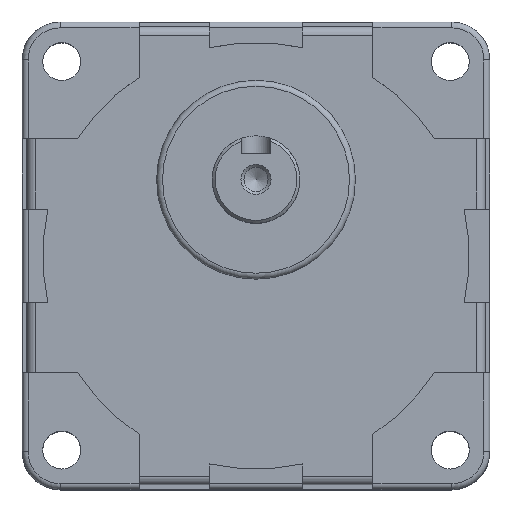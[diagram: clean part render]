
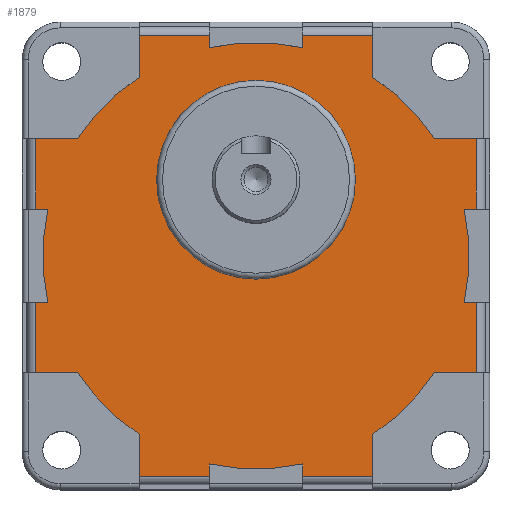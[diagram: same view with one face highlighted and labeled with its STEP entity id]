
A CAD part, top view. The second image highlights one B-rep face of the part: STEP entity #1879.
In plain terms, the highlighted planar face has unit normal (0, 0, 1).
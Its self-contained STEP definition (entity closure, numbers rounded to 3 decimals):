
#32=FACE_BOUND('',#267,.T.);
#46=PLANE('',#2035);
#154=FACE_OUTER_BOUND('',#266,.T.);
#266=EDGE_LOOP('',(#1392,#1393,#1394,#1395,#1396,#1397,#1398,#1399,#1400,
#1401,#1402,#1403,#1404,#1405,#1406,#1407,#1408,#1409,#1410,#1411,#1412,
#1413,#1414,#1415,#1416,#1417,#1418,#1419,#1420,#1421,#1422,#1423));
#267=EDGE_LOOP('',(#1424));
#375=LINE('',#2906,#560);
#379=LINE('',#2918,#564);
#381=LINE('',#2924,#566);
#382=LINE('',#2928,#567);
#383=LINE('',#2930,#568);
#384=LINE('',#2932,#569);
#385=LINE('',#2936,#570);
#386=LINE('',#2938,#571);
#387=LINE('',#2940,#572);
#388=LINE('',#2944,#573);
#389=LINE('',#2946,#574);
#390=LINE('',#2948,#575);
#391=LINE('',#2952,#576);
#392=LINE('',#2954,#577);
#393=LINE('',#2956,#578);
#394=LINE('',#2960,#579);
#395=LINE('',#2962,#580);
#396=LINE('',#2964,#581);
#397=LINE('',#2968,#582);
#398=LINE('',#2970,#583);
#399=LINE('',#2972,#584);
#400=LINE('',#2975,#585);
#401=LINE('',#2977,#586);
#402=LINE('',#2980,#587);
#560=VECTOR('',#2305,10.);
#564=VECTOR('',#2315,10.);
#566=VECTOR('',#2321,10.);
#567=VECTOR('',#2324,10.);
#568=VECTOR('',#2325,10.);
#569=VECTOR('',#2326,10.);
#570=VECTOR('',#2329,10.);
#571=VECTOR('',#2330,10.);
#572=VECTOR('',#2331,10.);
#573=VECTOR('',#2334,10.);
#574=VECTOR('',#2335,10.);
#575=VECTOR('',#2336,10.);
#576=VECTOR('',#2339,10.);
#577=VECTOR('',#2340,10.);
#578=VECTOR('',#2341,10.);
#579=VECTOR('',#2344,10.);
#580=VECTOR('',#2345,10.);
#581=VECTOR('',#2346,10.);
#582=VECTOR('',#2349,10.);
#583=VECTOR('',#2350,10.);
#584=VECTOR('',#2351,10.);
#585=VECTOR('',#2354,10.);
#586=VECTOR('',#2355,10.);
#587=VECTOR('',#2358,10.);
#749=CIRCLE('',#2026,17.);
#754=CIRCLE('',#2036,36.5);
#755=CIRCLE('',#2037,36.5);
#756=CIRCLE('',#2038,36.5);
#757=CIRCLE('',#2039,36.5);
#758=CIRCLE('',#2040,36.5);
#759=CIRCLE('',#2041,36.5);
#760=CIRCLE('',#2042,36.5);
#761=CIRCLE('',#2043,36.5);
#855=VERTEX_POINT('',#2894);
#856=VERTEX_POINT('',#2899);
#859=VERTEX_POINT('',#2904);
#863=VERTEX_POINT('',#2915);
#864=VERTEX_POINT('',#2917);
#866=VERTEX_POINT('',#2923);
#867=VERTEX_POINT('',#2925);
#868=VERTEX_POINT('',#2927);
#869=VERTEX_POINT('',#2929);
#870=VERTEX_POINT('',#2931);
#871=VERTEX_POINT('',#2933);
#872=VERTEX_POINT('',#2935);
#873=VERTEX_POINT('',#2937);
#874=VERTEX_POINT('',#2939);
#875=VERTEX_POINT('',#2941);
#876=VERTEX_POINT('',#2943);
#877=VERTEX_POINT('',#2945);
#878=VERTEX_POINT('',#2947);
#879=VERTEX_POINT('',#2949);
#880=VERTEX_POINT('',#2951);
#881=VERTEX_POINT('',#2953);
#882=VERTEX_POINT('',#2955);
#883=VERTEX_POINT('',#2957);
#884=VERTEX_POINT('',#2959);
#885=VERTEX_POINT('',#2961);
#886=VERTEX_POINT('',#2963);
#887=VERTEX_POINT('',#2965);
#888=VERTEX_POINT('',#2967);
#889=VERTEX_POINT('',#2969);
#890=VERTEX_POINT('',#2971);
#891=VERTEX_POINT('',#2973);
#892=VERTEX_POINT('',#2976);
#893=VERTEX_POINT('',#2978);
#1055=EDGE_CURVE('',#855,#855,#749,.T.);
#1059=EDGE_CURVE('',#859,#856,#375,.T.);
#1064=EDGE_CURVE('',#863,#864,#379,.T.);
#1067=EDGE_CURVE('',#859,#866,#381,.T.);
#1068=EDGE_CURVE('',#867,#866,#754,.T.);
#1069=EDGE_CURVE('',#868,#867,#382,.T.);
#1070=EDGE_CURVE('',#869,#868,#383,.T.);
#1071=EDGE_CURVE('',#870,#869,#384,.T.);
#1072=EDGE_CURVE('',#871,#870,#755,.T.);
#1073=EDGE_CURVE('',#871,#872,#385,.T.);
#1074=EDGE_CURVE('',#873,#872,#386,.T.);
#1075=EDGE_CURVE('',#873,#874,#387,.T.);
#1076=EDGE_CURVE('',#875,#874,#756,.T.);
#1077=EDGE_CURVE('',#876,#875,#388,.T.);
#1078=EDGE_CURVE('',#877,#876,#389,.T.);
#1079=EDGE_CURVE('',#878,#877,#390,.T.);
#1080=EDGE_CURVE('',#879,#878,#757,.T.);
#1081=EDGE_CURVE('',#879,#880,#391,.T.);
#1082=EDGE_CURVE('',#881,#880,#392,.T.);
#1083=EDGE_CURVE('',#881,#882,#393,.T.);
#1084=EDGE_CURVE('',#883,#882,#758,.T.);
#1085=EDGE_CURVE('',#884,#883,#394,.T.);
#1086=EDGE_CURVE('',#885,#884,#395,.T.);
#1087=EDGE_CURVE('',#886,#885,#396,.T.);
#1088=EDGE_CURVE('',#887,#886,#759,.T.);
#1089=EDGE_CURVE('',#887,#888,#397,.T.);
#1090=EDGE_CURVE('',#889,#888,#398,.T.);
#1091=EDGE_CURVE('',#889,#890,#399,.T.);
#1092=EDGE_CURVE('',#891,#890,#760,.T.);
#1093=EDGE_CURVE('',#864,#891,#400,.T.);
#1094=EDGE_CURVE('',#892,#863,#401,.T.);
#1095=EDGE_CURVE('',#893,#892,#761,.T.);
#1096=EDGE_CURVE('',#893,#856,#402,.T.);
#1392=ORIENTED_EDGE('',*,*,#1059,.F.);
#1393=ORIENTED_EDGE('',*,*,#1067,.T.);
#1394=ORIENTED_EDGE('',*,*,#1068,.F.);
#1395=ORIENTED_EDGE('',*,*,#1069,.F.);
#1396=ORIENTED_EDGE('',*,*,#1070,.F.);
#1397=ORIENTED_EDGE('',*,*,#1071,.F.);
#1398=ORIENTED_EDGE('',*,*,#1072,.F.);
#1399=ORIENTED_EDGE('',*,*,#1073,.T.);
#1400=ORIENTED_EDGE('',*,*,#1074,.F.);
#1401=ORIENTED_EDGE('',*,*,#1075,.T.);
#1402=ORIENTED_EDGE('',*,*,#1076,.F.);
#1403=ORIENTED_EDGE('',*,*,#1077,.F.);
#1404=ORIENTED_EDGE('',*,*,#1078,.F.);
#1405=ORIENTED_EDGE('',*,*,#1079,.F.);
#1406=ORIENTED_EDGE('',*,*,#1080,.F.);
#1407=ORIENTED_EDGE('',*,*,#1081,.T.);
#1408=ORIENTED_EDGE('',*,*,#1082,.F.);
#1409=ORIENTED_EDGE('',*,*,#1083,.T.);
#1410=ORIENTED_EDGE('',*,*,#1084,.F.);
#1411=ORIENTED_EDGE('',*,*,#1085,.F.);
#1412=ORIENTED_EDGE('',*,*,#1086,.F.);
#1413=ORIENTED_EDGE('',*,*,#1087,.F.);
#1414=ORIENTED_EDGE('',*,*,#1088,.F.);
#1415=ORIENTED_EDGE('',*,*,#1089,.T.);
#1416=ORIENTED_EDGE('',*,*,#1090,.F.);
#1417=ORIENTED_EDGE('',*,*,#1091,.T.);
#1418=ORIENTED_EDGE('',*,*,#1092,.F.);
#1419=ORIENTED_EDGE('',*,*,#1093,.F.);
#1420=ORIENTED_EDGE('',*,*,#1064,.F.);
#1421=ORIENTED_EDGE('',*,*,#1094,.F.);
#1422=ORIENTED_EDGE('',*,*,#1095,.F.);
#1423=ORIENTED_EDGE('',*,*,#1096,.T.);
#1424=ORIENTED_EDGE('',*,*,#1055,.F.);
#1879=ADVANCED_FACE('',(#154,#32),#46,.T.);
#2026=AXIS2_PLACEMENT_3D('',#2896,#2294,#2295);
#2035=AXIS2_PLACEMENT_3D('',#2922,#2319,#2320);
#2036=AXIS2_PLACEMENT_3D('',#2926,#2322,#2323);
#2037=AXIS2_PLACEMENT_3D('',#2934,#2327,#2328);
#2038=AXIS2_PLACEMENT_3D('',#2942,#2332,#2333);
#2039=AXIS2_PLACEMENT_3D('',#2950,#2337,#2338);
#2040=AXIS2_PLACEMENT_3D('',#2958,#2342,#2343);
#2041=AXIS2_PLACEMENT_3D('',#2966,#2347,#2348);
#2042=AXIS2_PLACEMENT_3D('',#2974,#2352,#2353);
#2043=AXIS2_PLACEMENT_3D('',#2979,#2356,#2357);
#2294=DIRECTION('center_axis',(0.,0.,1.));
#2295=DIRECTION('ref_axis',(-1.,0.,0.));
#2305=DIRECTION('',(0.,-1.,0.));
#2315=DIRECTION('',(0.,-1.,0.));
#2319=DIRECTION('center_axis',(0.,0.,1.));
#2320=DIRECTION('ref_axis',(1.,0.,0.));
#2321=DIRECTION('',(-1.,0.,0.));
#2322=DIRECTION('center_axis',(0.,0.,-1.));
#2323=DIRECTION('ref_axis',(-1.,0.,0.));
#2324=DIRECTION('',(0.,-1.,0.));
#2325=DIRECTION('',(1.,0.,0.));
#2326=DIRECTION('',(0.,1.,0.));
#2327=DIRECTION('center_axis',(0.,0.,-1.));
#2328=DIRECTION('ref_axis',(-1.,0.,0.));
#2329=DIRECTION('',(0.,1.,0.));
#2330=DIRECTION('',(1.,0.,0.));
#2331=DIRECTION('',(0.,-1.,0.));
#2332=DIRECTION('center_axis',(0.,0.,-1.));
#2333=DIRECTION('ref_axis',(-1.,0.,0.));
#2334=DIRECTION('',(1.,0.,0.));
#2335=DIRECTION('',(0.,1.,0.));
#2336=DIRECTION('',(-1.,0.,0.));
#2337=DIRECTION('center_axis',(0.,0.,-1.));
#2338=DIRECTION('ref_axis',(-1.,0.,0.));
#2339=DIRECTION('',(-1.,0.,0.));
#2340=DIRECTION('',(0.,1.,0.));
#2341=DIRECTION('',(1.,0.,0.));
#2342=DIRECTION('center_axis',(0.,0.,-1.));
#2343=DIRECTION('ref_axis',(-1.,0.,0.));
#2344=DIRECTION('',(0.,1.,0.));
#2345=DIRECTION('',(-1.,0.,0.));
#2346=DIRECTION('',(0.,-1.,0.));
#2347=DIRECTION('center_axis',(0.,0.,-1.));
#2348=DIRECTION('ref_axis',(-1.,0.,0.));
#2349=DIRECTION('',(0.,-1.,0.));
#2350=DIRECTION('',(-1.,0.,0.));
#2351=DIRECTION('',(0.,1.,0.));
#2352=DIRECTION('center_axis',(0.,0.,-1.));
#2353=DIRECTION('ref_axis',(-1.,0.,0.));
#2354=DIRECTION('',(-1.,0.,0.));
#2355=DIRECTION('',(1.,0.,0.));
#2356=DIRECTION('center_axis',(0.,0.,-1.));
#2357=DIRECTION('ref_axis',(-1.,0.,0.));
#2358=DIRECTION('',(1.,0.,0.));
#2894=CARTESIAN_POINT('',(17.,13.,40.2));
#2896=CARTESIAN_POINT('Origin',(0.,13.,40.2));
#2899=CARTESIAN_POINT('',(37.7,8.,40.2));
#2904=CARTESIAN_POINT('',(37.7,20.,40.2));
#2906=CARTESIAN_POINT('',(37.7,10.,40.2));
#2915=CARTESIAN_POINT('',(37.7,-8.,40.2));
#2917=CARTESIAN_POINT('',(37.7,-20.,40.2));
#2918=CARTESIAN_POINT('',(37.7,-10.,40.2));
#2922=CARTESIAN_POINT('Origin',(0.,0.,40.2));
#2923=CARTESIAN_POINT('',(30.533,20.,40.2));
#2924=CARTESIAN_POINT('',(30.533,20.,40.2));
#2925=CARTESIAN_POINT('',(20.,30.533,40.2));
#2926=CARTESIAN_POINT('Origin',(0.,0.,40.2));
#2927=CARTESIAN_POINT('',(20.,37.7,40.2));
#2928=CARTESIAN_POINT('',(20.,30.533,40.2));
#2929=CARTESIAN_POINT('',(8.,37.7,40.2));
#2930=CARTESIAN_POINT('',(10.,37.7,40.2));
#2931=CARTESIAN_POINT('',(8.,35.612,40.2));
#2932=CARTESIAN_POINT('',(8.,40.,40.2));
#2933=CARTESIAN_POINT('',(-8.,35.612,40.2));
#2934=CARTESIAN_POINT('Origin',(0.,0.,40.2));
#2935=CARTESIAN_POINT('',(-8.,37.7,40.2));
#2936=CARTESIAN_POINT('',(-8.,40.,40.2));
#2937=CARTESIAN_POINT('',(-20.,37.7,40.2));
#2938=CARTESIAN_POINT('',(-10.,37.7,40.2));
#2939=CARTESIAN_POINT('',(-20.,30.533,40.2));
#2940=CARTESIAN_POINT('',(-20.,30.533,40.2));
#2941=CARTESIAN_POINT('',(-30.533,20.,40.2));
#2942=CARTESIAN_POINT('Origin',(0.,0.,40.2));
#2943=CARTESIAN_POINT('',(-37.7,20.,40.2));
#2944=CARTESIAN_POINT('',(-30.533,20.,40.2));
#2945=CARTESIAN_POINT('',(-37.7,8.,40.2));
#2946=CARTESIAN_POINT('',(-37.7,10.,40.2));
#2947=CARTESIAN_POINT('',(-35.612,8.,40.2));
#2948=CARTESIAN_POINT('',(-40.,8.,40.2));
#2949=CARTESIAN_POINT('',(-35.612,-8.,40.2));
#2950=CARTESIAN_POINT('Origin',(0.,0.,40.2));
#2951=CARTESIAN_POINT('',(-37.7,-8.,40.2));
#2952=CARTESIAN_POINT('',(-40.,-8.,40.2));
#2953=CARTESIAN_POINT('',(-37.7,-20.,40.2));
#2954=CARTESIAN_POINT('',(-37.7,-10.,40.2));
#2955=CARTESIAN_POINT('',(-30.533,-20.,40.2));
#2956=CARTESIAN_POINT('',(-30.533,-20.,40.2));
#2957=CARTESIAN_POINT('',(-20.,-30.533,40.2));
#2958=CARTESIAN_POINT('Origin',(0.,0.,40.2));
#2959=CARTESIAN_POINT('',(-20.,-37.7,40.2));
#2960=CARTESIAN_POINT('',(-20.,-30.533,40.2));
#2961=CARTESIAN_POINT('',(-8.,-37.7,40.2));
#2962=CARTESIAN_POINT('',(-10.,-37.7,40.2));
#2963=CARTESIAN_POINT('',(-8.,-35.612,40.2));
#2964=CARTESIAN_POINT('',(-8.,-40.,40.2));
#2965=CARTESIAN_POINT('',(8.,-35.612,40.2));
#2966=CARTESIAN_POINT('Origin',(0.,0.,40.2));
#2967=CARTESIAN_POINT('',(8.,-37.7,40.2));
#2968=CARTESIAN_POINT('',(8.,-40.,40.2));
#2969=CARTESIAN_POINT('',(20.,-37.7,40.2));
#2970=CARTESIAN_POINT('',(10.,-37.7,40.2));
#2971=CARTESIAN_POINT('',(20.,-30.533,40.2));
#2972=CARTESIAN_POINT('',(20.,-30.533,40.2));
#2973=CARTESIAN_POINT('',(30.533,-20.,40.2));
#2974=CARTESIAN_POINT('Origin',(0.,0.,40.2));
#2975=CARTESIAN_POINT('',(30.533,-20.,40.2));
#2976=CARTESIAN_POINT('',(35.612,-8.,40.2));
#2977=CARTESIAN_POINT('',(40.,-8.,40.2));
#2978=CARTESIAN_POINT('',(35.612,8.,40.2));
#2979=CARTESIAN_POINT('Origin',(0.,0.,40.2));
#2980=CARTESIAN_POINT('',(40.,8.,40.2));
